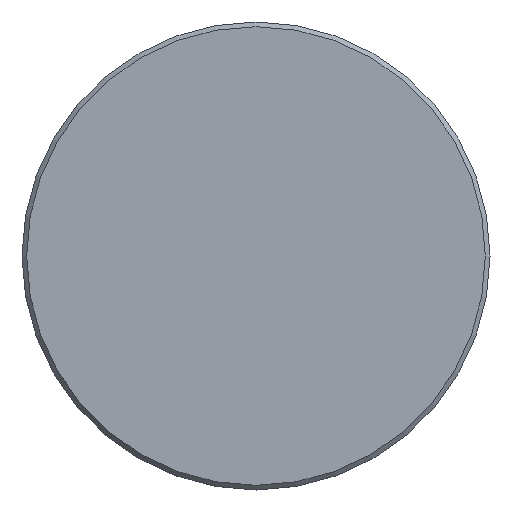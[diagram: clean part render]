
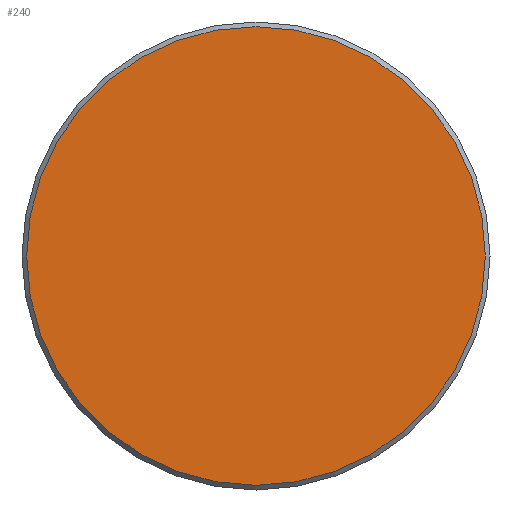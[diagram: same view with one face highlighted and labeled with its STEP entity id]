
A CAD part, front view. The second image highlights one B-rep face of the part: STEP entity #240.
In plain terms, the highlighted planar face has unit normal (0, -1, 0).
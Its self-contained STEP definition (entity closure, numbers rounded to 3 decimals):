
#240 = ADVANCED_FACE( '', ( #455 ), #456, .F. );
#455 = FACE_OUTER_BOUND( '', #651, .T. );
#456 = PLANE( '', #652 );
#651 = EDGE_LOOP( '', ( #1061 ) );
#652 = AXIS2_PLACEMENT_3D( '', #1062, #1063, #1064 );
#1061 = ORIENTED_EDGE( '', *, *, #1113, .T. );
#1062 = CARTESIAN_POINT( '', ( 24.5, 0., 0. ) );
#1063 = DIRECTION( '', ( 0., 1., 0. ) );
#1064 = DIRECTION( '', ( 0., 0., 1. ) );
#1113 = EDGE_CURVE( '', #1284, #1284, #1285, .T. );
#1284 = VERTEX_POINT( '', #1558 );
#1285 = CIRCLE( '', #1559, 24.5 );
#1558 = CARTESIAN_POINT( '', ( 0., 0., -24.5 ) );
#1559 = AXIS2_PLACEMENT_3D( '', #1982, #1983, #1984 );
#1982 = CARTESIAN_POINT( '', ( 0., 0., 0. ) );
#1983 = DIRECTION( '', ( 0., -1., 0. ) );
#1984 = DIRECTION( '', ( 0., 0., -1. ) );
